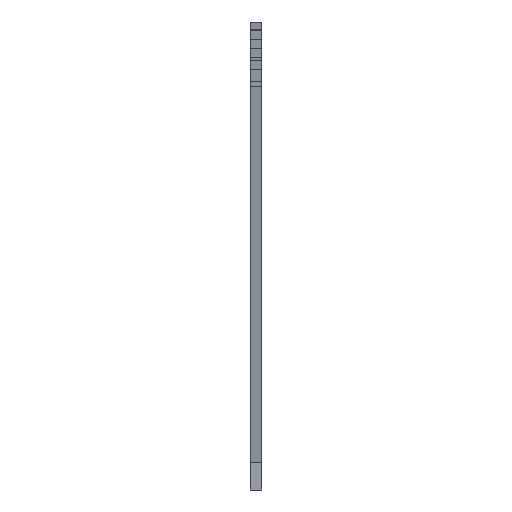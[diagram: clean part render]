
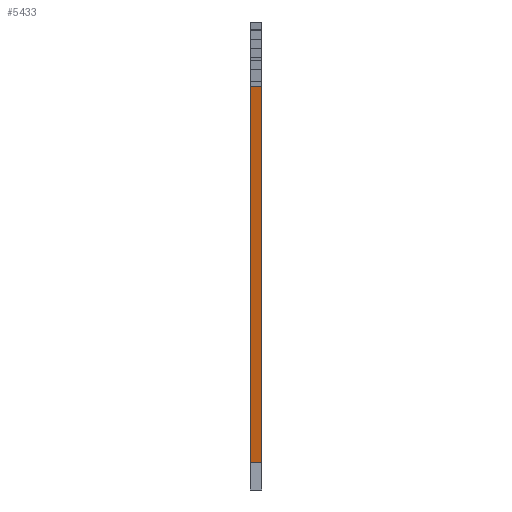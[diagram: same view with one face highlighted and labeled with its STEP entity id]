
A CAD part, left-side view. The second image highlights one B-rep face of the part: STEP entity #5433.
In plain terms, the highlighted planar face has unit normal (-0.128, 0, 0.992).
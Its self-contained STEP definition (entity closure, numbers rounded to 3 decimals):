
#724=DIRECTION('',(0.992,0.,0.128));
#725=VECTOR('',#724,765.616);
#726=CARTESIAN_POINT('',(603.825,-19.,-219.129));
#727=LINE('',#726,#725);
#1442=DIRECTION('',(0.992,0.,0.128));
#1443=VECTOR('',#1442,765.616);
#1444=CARTESIAN_POINT('',(603.825,-16.,-219.129));
#1445=LINE('',#1444,#1443);
#2038=DIRECTION('',(0.,1.,0.));
#2039=VECTOR('',#2038,3.);
#2040=CARTESIAN_POINT('',(603.825,-19.,-219.129));
#2041=LINE('',#2040,#2039);
#2042=DIRECTION('',(0.,1.,0.));
#2043=VECTOR('',#2042,3.);
#2044=CARTESIAN_POINT('',(1363.126,-19.,-121.002));
#2045=LINE('',#2044,#2043);
#2412=CARTESIAN_POINT('',(603.825,-19.,-219.129));
#2414=VERTEX_POINT('',#2412);
#2416=CARTESIAN_POINT('',(603.825,-16.,-219.129));
#2418=VERTEX_POINT('',#2416);
#2576=CARTESIAN_POINT('',(1363.126,-19.,-121.002));
#2577=CARTESIAN_POINT('',(1363.126,-16.,-121.002));
#2578=VERTEX_POINT('',#2576);
#2579=VERTEX_POINT('',#2577);
#5422=CARTESIAN_POINT('',(-67.322,-19.,-305.864));
#5423=DIRECTION('',(-0.128,0.,0.992));
#5424=DIRECTION('',(0.992,0.,0.128));
#5425=AXIS2_PLACEMENT_3D('',#5422,#5423,#5424);
#5426=PLANE('',#5425);
#5427=ORIENTED_EDGE('',*,*,#5377,.T.);
#5428=ORIENTED_EDGE('',*,*,#3049,.T.);
#5429=ORIENTED_EDGE('',*,*,#5400,.F.);
#5430=ORIENTED_EDGE('',*,*,#2633,.F.);
#5431=EDGE_LOOP('',(#5427,#5428,#5429,#5430));
#5432=FACE_OUTER_BOUND('',#5431,.F.);
#5433=ADVANCED_FACE('',(#5432),#5426,.T.);
#2633=EDGE_CURVE('',#2414,#2578,#727,.T.);
#3049=EDGE_CURVE('',#2418,#2579,#1445,.T.);
#5377=EDGE_CURVE('',#2414,#2418,#2041,.T.);
#5400=EDGE_CURVE('',#2578,#2579,#2045,.T.);
